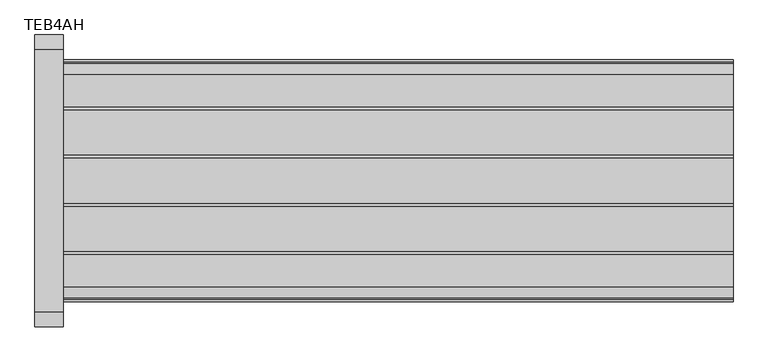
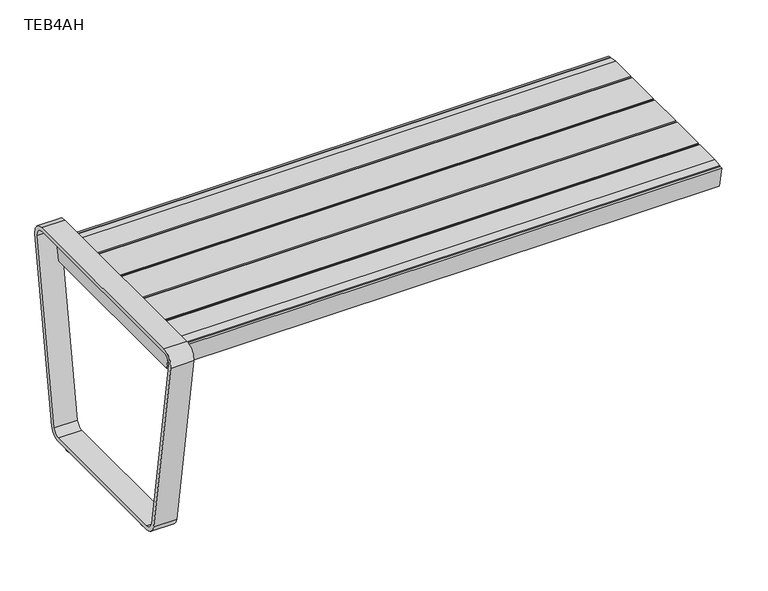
"""IFC4 building model written with IfcOpenShell, lengths in millimetres: furniture geometry, Stance_HC-Terrace-Straight_Bench_HDPE : TEB4AH."""

from ifc_helpers import new_model, si_unit, point, frame, frame_2d, origin, origin_with_axes, place, context, project, spatial, polyline, circle_curve, trimmed, segment, composite_curve, outline, extrude, source, transform, mapped, element, save


def teb4ah_dc728d43(model_context):
    return source(origin(), model_context, "Body", "SweptSolid", [
        extrude(outline(polyline([(880.26875, -50.90414), (880.26875, -467.25586), (791.36875, -467.25586), (791.36875, -50.90414), (880.26875, -50.90414)])), frame((0.0, 0.0, 432.435), z_axis=(0.0, 0.0, 1.0), x_axis=(1.0, 0.0, 0.0)), (0.0, 0.0, 1.0), 3.175),
        extrude(outline(composite_curve([segment(polyline([(-467.25586, 432.435), (-50.90414, 432.435), (-57.0623598, 397.51)]), True, "CONTINUOUS"), segment(trimmed(circle_curve(frame_2d((-259.08, 1997.8972816)), 1613.0872816), [point((-57.0623598, 397.51))], [point((-461.0976402, 397.51))], False, "CARTESIAN"), True, "CONTINUOUS"), segment(polyline([(-461.0976402, 397.51), (-467.25586, 432.435)]), True, "CONTINUOUS")], self_intersect=False)), frame((833.43115, 0.0, 0.0), z_axis=(1.0, 0.0, 0.0), x_axis=(0.0, 1.0, 0.0)), (0.0, 0.0, 1.0), 4.7752),
        extrude(outline(polyline([(677.8625, -50.90414), (677.8625, -467.25586), (588.9625, -467.25586), (588.9625, -50.90414), (677.8625, -50.90414)])), frame((0.0, 0.0, 432.435), z_axis=(0.0, 0.0, 1.0), x_axis=(1.0, 0.0, 0.0)), (0.0, 0.0, 1.0), 3.175),
        extrude(outline(composite_curve([segment(polyline([(-467.25586, 432.435), (-50.90414, 432.435), (-57.0623598, 397.51)]), True, "CONTINUOUS"), segment(trimmed(circle_curve(frame_2d((-259.08, 1997.8972816)), 1613.0872816), [point((-57.0623598, 397.51))], [point((-461.0976402, 397.51))], False, "CARTESIAN"), True, "CONTINUOUS"), segment(polyline([(-461.0976402, 397.51), (-467.25586, 432.435)]), True, "CONTINUOUS")], self_intersect=False)), frame((631.0249, 0.0, 0.0), z_axis=(1.0, 0.0, 0.0), x_axis=(0.0, 1.0, 0.0)), (0.0, 0.0, 1.0), 4.7752),
        extrude(outline(polyline([(475.45625, -50.90414), (475.45625, -467.25586), (386.55625, -467.25586), (386.55625, -50.90414), (475.45625, -50.90414)])), frame((0.0, 0.0, 432.435), z_axis=(0.0, 0.0, 1.0), x_axis=(1.0, 0.0, 0.0)), (0.0, 0.0, 1.0), 3.175),
        extrude(outline(composite_curve([segment(polyline([(-467.25586, 432.435), (-50.90414, 432.435), (-57.0623598, 397.51)]), True, "CONTINUOUS"), segment(trimmed(circle_curve(frame_2d((-259.08, 1997.8972816)), 1613.0872816), [point((-57.0623598, 397.51))], [point((-461.0976402, 397.51))], False, "CARTESIAN"), True, "CONTINUOUS"), segment(polyline([(-461.0976402, 397.51), (-467.25586, 432.435)]), True, "CONTINUOUS")], self_intersect=False)), frame((428.61865, 0.0, 0.0), z_axis=(1.0, 0.0, 0.0), x_axis=(0.0, 1.0, 0.0)), (0.0, 0.0, 1.0), 4.7752),
        extrude(outline(polyline([(1082.675, -50.90414), (1082.675, -467.25586), (993.775, -467.25586), (993.775, -50.90414), (1082.675, -50.90414)])), frame((0.0, 0.0, 432.435), z_axis=(0.0, 0.0, 1.0), x_axis=(1.0, 0.0, 0.0)), (0.0, 0.0, 1.0), 3.175),
        extrude(outline(composite_curve([segment(polyline([(-467.25586, 432.435), (-50.90414, 432.435), (-57.0623598, 397.51)]), True, "CONTINUOUS"), segment(trimmed(circle_curve(frame_2d((-259.08, 1997.8972816)), 1613.0872816), [point((-57.0623598, 397.51))], [point((-461.0976402, 397.51))], False, "CARTESIAN"), True, "CONTINUOUS"), segment(polyline([(-461.0976402, 397.51), (-467.25586, 432.435)]), True, "CONTINUOUS")], self_intersect=False)), frame((1035.8374, 0.0, 0.0), z_axis=(1.0, 0.0, 0.0), x_axis=(0.0, 1.0, 0.0)), (0.0, 0.0, 1.0), 4.7752),
        extrude(outline(polyline([(273.05, -50.90414), (273.05, -467.25586), (184.15, -467.25586), (184.15, -50.90414), (273.05, -50.90414)])), frame((0.0, 0.0, 432.435), z_axis=(0.0, 0.0, 1.0), x_axis=(1.0, 0.0, 0.0)), (0.0, 0.0, 1.0), 3.175),
        extrude(outline(composite_curve([segment(polyline([(-467.25586, 432.435), (-50.90414, 432.435), (-57.0623598, 397.51)]), True, "CONTINUOUS"), segment(trimmed(circle_curve(frame_2d((-259.08, 1997.8972816)), 1613.0872816), [point((-57.0623598, 397.51))], [point((-461.0976402, 397.51))], False, "CARTESIAN"), True, "CONTINUOUS"), segment(polyline([(-461.0976402, 397.51), (-467.25586, 432.435)]), True, "CONTINUOUS")], self_intersect=False)), frame((226.2124, 0.0, 0.0), z_axis=(1.0, 0.0, 0.0), x_axis=(0.0, 1.0, 0.0)), (0.0, 0.0, 1.0), 4.7752),
        extrude(outline(polyline([(-476.5675, 457.8350949), (-41.5925, 457.8350949), (-52.2294419, 397.51), (-465.9305581, 397.51), (-476.5675, 457.8350949)])), frame((22.225, 0.0, 0.0), z_axis=(1.0, 0.0, 0.0), x_axis=(0.0, 1.0, 0.0)), (0.0, 0.0, 1.0), 6.35),
        extrude(outline(composite_curve([segment(trimmed(circle_curve(frame_2d((25.4, -399.75536)), 22.225), [point((3.175, -399.75536))], [point((47.625, -399.75536))], False, "CARTESIAN"), True, "CONTINUOUS"), segment(trimmed(circle_curve(frame_2d((25.4, -399.75536)), 22.225), [point((47.625, -399.75536))], [point((3.175, -399.75536))], False, "CARTESIAN"), True, "CONTINUOUS")], self_intersect=False)), origin_with_axes(), (0.0, 0.0, 1.0), 6.35),
        extrude(outline(composite_curve([segment(trimmed(circle_curve(frame_2d((25.4, -118.40464)), 22.225), [point((3.175, -118.40464))], [point((47.625, -118.40464))], False, "CARTESIAN"), True, "CONTINUOUS"), segment(trimmed(circle_curve(frame_2d((25.4, -118.40464)), 22.225), [point((47.625, -118.40464))], [point((3.175, -118.40464))], False, "CARTESIAN"), True, "CONTINUOUS")], self_intersect=False)), origin_with_axes(), (0.0, 0.0, 1.0), 6.35),
        extrude(outline(composite_curve([segment(polyline([(-493.0697614, 467.3600949), (-25.0902386, 467.3600949)]), True, "CONTINUOUS"), segment(trimmed(circle_curve(frame_2d((-25.0902386, 441.96)), 25.4000949), [point((-25.0902386, 467.3600949))], [point((-0.002861, 437.9865497))], False, "CARTESIAN"), True, "CONTINUOUS"), segment(polyline([(-0.002861, 437.9865497), (-64.9737422, 27.7765497)]), True, "CONTINUOUS"), segment(trimmed(circle_curve(frame_2d((-90.0611198, 31.75)), 25.4000949), [point((-64.9737422, 27.7765497))], [point((-90.0611198, 6.3499051))], False, "CARTESIAN"), True, "CONTINUOUS"), segment(polyline([(-90.0611198, 6.3499051), (-428.0988802, 6.3499051)]), True, "CONTINUOUS"), segment(trimmed(circle_curve(frame_2d((-428.0988802, 31.75)), 25.4000949), [point((-428.0988802, 6.3499051))], [point((-453.1862578, 27.7765497))], False, "CARTESIAN"), True, "CONTINUOUS"), segment(polyline([(-453.1862578, 27.7765497), (-518.157139, 437.9865497)]), True, "CONTINUOUS"), segment(trimmed(circle_curve(frame_2d((-493.0697614, 441.96)), 25.4000949), [point((-518.157139, 437.9865497))], [point((-493.0697614, 467.3600949))], False, "CARTESIAN"), True, "CONTINUOUS")], self_intersect=False), holes=[composite_curve([segment(polyline([(-74.3814737, 29.266588), (-9.4105924, 439.476588)]), True, "CONTINUOUS"), segment(trimmed(circle_curve(frame_2d((-25.0902386, 441.96)), 15.8750949), [point((-9.4105924, 439.476588))], [point((-25.0902386, 457.8350949))], True, "CARTESIAN"), True, "CONTINUOUS"), segment(polyline([(-25.0902386, 457.8350949), (-493.0697614, 457.8350949)]), True, "CONTINUOUS"), segment(trimmed(circle_curve(frame_2d((-493.0697614, 441.96)), 15.8750949), [point((-493.0697614, 457.8350949))], [point((-508.7494076, 439.476588))], True, "CARTESIAN"), True, "CONTINUOUS"), segment(polyline([(-508.7494076, 439.476588), (-443.7785263, 29.266588)]), True, "CONTINUOUS"), segment(trimmed(circle_curve(frame_2d((-428.0988802, 31.75)), 15.8750949), [point((-443.7785263, 29.266588))], [point((-428.0988802, 15.8749051))], True, "CARTESIAN"), True, "CONTINUOUS"), segment(polyline([(-428.0988802, 15.8749051), (-90.0611198, 15.8749051)]), True, "CONTINUOUS"), segment(trimmed(circle_curve(frame_2d((-90.0611198, 31.75)), 15.8750949), [point((-90.0611198, 15.8749051))], [point((-74.3814737, 29.266588))], True, "CARTESIAN"), True, "CONTINUOUS")], self_intersect=False)]), frame((0.0, 0.0, 0.0), z_axis=(1.0, 0.0, 0.0), x_axis=(0.0, 1.0, 0.0)), (0.0, 0.0, 1.0), 50.8),
        extrude(outline(polyline([(-57.0610609, 397.510164), (-461.0989391, 397.510164), (-467.2574614, 432.4368793), (-50.9025386, 432.4368793), (-57.0610609, 397.510164)])), frame((1236.6625, 0.0, 0.0), z_axis=(1.0, 0.0, 0.0), x_axis=(0.0, 1.0, 0.0)), (0.0, 0.0, 1.0), 4.7625),
        extrude(outline(polyline([(-57.0610609, 397.510164), (-461.0989391, 397.510164), (-467.2574614, 432.4368793), (-50.9025386, 432.4368793), (-57.0610609, 397.510164)])), frame((28.575, 0.0, 0.0), z_axis=(1.0, 0.0, 0.0), x_axis=(0.0, 1.0, 0.0)), (0.0, 0.0, 1.0), 4.7625),
        extrude(outline(polyline([(0.0, -4.7625), (0.0, 0.0), (1212.85, 0.0), (1212.85, -4.7625), (0.0, -4.7625)])), frame((1241.425, -57.0623598, 397.51), z_axis=(0.0, 0.17364817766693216, 0.9848077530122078), x_axis=(-1.0, 0.0, 0.0)), (0.0, 0.0, 1.0), 48.35906),
        extrude(outline(polyline([(0.0, -4.7625), (0.0, 0.0), (1212.85, 0.0), (1212.85, -4.7625), (0.0, -4.7625)])), frame((1241.425, -465.7877871, 396.6830006), z_axis=(0.0, -0.17364817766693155, 0.9848077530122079), x_axis=(-1.0, 0.0, 0.0)), (0.0, 0.0, 1.0), 48.35906),
        extrude(outline(polyline([(-51.1175, 445.2927764), (-52.8248347, 435.61), (-465.3351653, 435.61), (-467.0425, 445.2927764), (-447.9925, 448.31), (-390.8425, 448.31), (-390.8425, 445.135), (-384.4925, 445.135), (-384.4925, 448.31), (-305.1175, 448.31), (-305.1175, 445.135), (-298.7675, 445.135), (-298.7675, 448.31), (-219.3925, 448.31), (-219.3925, 445.135), (-213.0425, 445.135), (-213.0425, 448.31), (-133.6675, 448.31), (-133.6675, 445.135), (-127.3175, 445.135), (-127.3175, 448.31), (-70.1675, 448.31), (-51.1175, 445.2927764)])), frame((31.75, 0.0, 0.0), z_axis=(1.0, 0.0, 0.0), x_axis=(0.0, 1.0, 0.0)), (0.0, 0.0, 1.0), 1209.675),
    ])


if __name__ == "__main__":
    model = new_model("IFC4")
    model_context = context("Model", 3, world=origin())
    ifc_project = project(units=[si_unit("LENGTHUNIT", "METRE", prefix="MILLI")], contexts=[model_context])
    site = spatial("IfcSite", under=ifc_project)
    building = spatial("IfcBuilding", under=site)
    placement = place(None, origin())
    teb4ah_shape = teb4ah_dc728d43(model_context)
    element("IfcFurniture", 1, ObjectType="Stance_HC-Terrace-Straight_Bench_HDPE : TEB4AH", at=placement, inside=building, context=model_context, shape_type="MappedRepresentation", body=[
        mapped(teb4ah_shape, transform((0.0, 0.0, 0.0), x_axis=(1.0, 0.0, 0.0), y_axis=(0.0, 1.0, 0.0), z_axis=(0.0, 0.0, 1.0))),
    ])
    save(model, "model.ifc")
